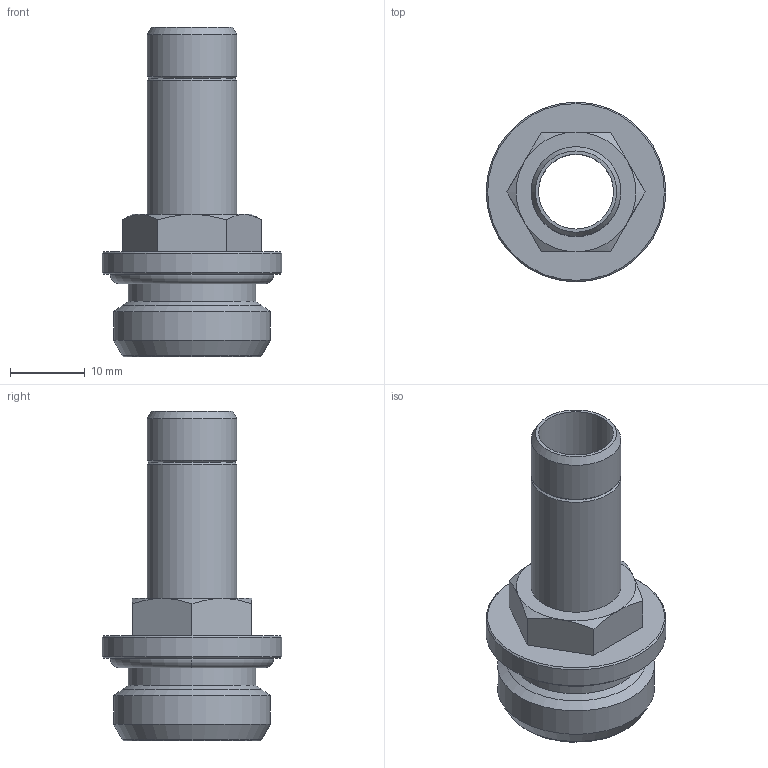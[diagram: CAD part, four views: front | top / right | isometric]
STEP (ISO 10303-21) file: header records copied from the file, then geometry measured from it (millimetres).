
FILE_DESCRIPTION(('Bauteilbeschreibung','HiCAD-Model','HiCAD-STEP-TRANSLATION','Bauteilbeschreibung'),'2;1');
FILE_NAME('B:/ABGLEICH/ZEICHNUNGEN/STEP FÜR INTERNET/STEP/IPSO 06/200615_IPSO_06_12_1-2.STP','2012-03-02T12:07:04+00:00',('Konstrukteur'),('Konstrukteur Firma GmbH'),' HiCAD neXt 2008, Step 3.1.1401.2J ','HiCAD neXt 2008','confidential');
FILE_SCHEMA(('AUTOMOTIVE_DESIGN { 1 2 10303 214 0 1 1 1 }'));
Length unit declared in the file: millimetre
Products named in the file (5): A00615_IPSO_06_12_1_2; A00615; A006150; G 1_2; OR 17_12X2_62
Assembly tree (4 placements, depth 3):
  A00615_IPSO_06_12_1_2
    A00615
    A006150
      G 1_2
    OR 17_12X2_62
Bounding box: 24 x 24 x 44 mm (x, y, z)
Volume: 4240.3 mm3; surface area: 5770.5 mm2
Topology: 3 solids, 3 shells, 45 faces, 98 edges, 59 vertices
Faces by surface type: cone 18, plane 12, cylinder 9, torus 6
Full cylindrical faces by diameter (mm): 10 x1, 12 x2, 13 x1, 17 x1, 18.631 x2, 20.955 x1, 24 x1
Entity records: 1444 total; most frequent: DIRECTION 202, CARTESIAN_POINT 193, ORIENTED_EDGE 132, AXIS2_PLACEMENT_3D 95, EDGE_LOOP 74, EDGE_CURVE 66, COLOUR_RGB 61, PRESENTATION_STYLE_ASSIGNMENT 61
